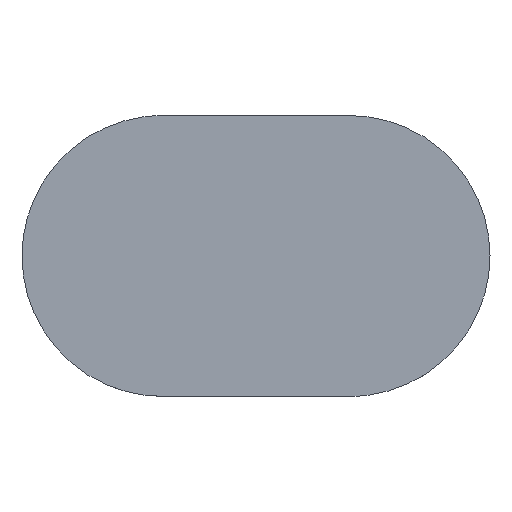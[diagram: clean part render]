
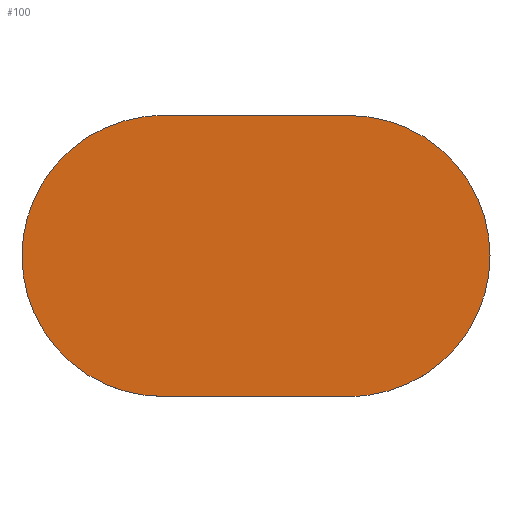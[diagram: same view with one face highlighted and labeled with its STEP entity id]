
A CAD part, top view. The second image highlights one B-rep face of the part: STEP entity #100.
In plain terms, the highlighted planar face has unit normal (0, 0, 1).
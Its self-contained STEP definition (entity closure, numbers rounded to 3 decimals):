
#15=(
BOUNDED_CURVE()
B_SPLINE_CURVE(2,(#491,#492,#493),.UNSPECIFIED.,.F.,.F.)
B_SPLINE_CURVE_WITH_KNOTS((3,3),(-2570.796,-2070.796),
 .UNSPECIFIED.)
CURVE()
GEOMETRIC_REPRESENTATION_ITEM()
RATIONAL_B_SPLINE_CURVE((1.,1.,1.))
REPRESENTATION_ITEM('')
);
#19=(
BOUNDED_CURVE()
B_SPLINE_CURVE(2,(#501,#502,#503,#504,#505),.UNSPECIFIED.,.F.,.F.)
B_SPLINE_CURVE_WITH_KNOTS((3,2,3),(-2070.796,-1678.097,
-1285.398),.UNSPECIFIED.)
CURVE()
GEOMETRIC_REPRESENTATION_ITEM()
RATIONAL_B_SPLINE_CURVE((1.,0.707,1.,0.707,1.))
REPRESENTATION_ITEM('')
);
#22=(
BOUNDED_CURVE()
B_SPLINE_CURVE(2,(#513,#514,#515),.UNSPECIFIED.,.F.,.F.)
B_SPLINE_CURVE_WITH_KNOTS((3,3),(-1285.398,-785.398),
 .UNSPECIFIED.)
CURVE()
GEOMETRIC_REPRESENTATION_ITEM()
RATIONAL_B_SPLINE_CURVE((1.,1.,1.))
REPRESENTATION_ITEM('')
);
#25=(
BOUNDED_CURVE()
B_SPLINE_CURVE(2,(#521,#522,#523,#524,#525),.UNSPECIFIED.,.F.,.F.)
B_SPLINE_CURVE_WITH_KNOTS((3,2,3),(-785.398,-392.699,
0.),.UNSPECIFIED.)
CURVE()
GEOMETRIC_REPRESENTATION_ITEM()
RATIONAL_B_SPLINE_CURVE((1.,0.707,1.,0.707,1.))
REPRESENTATION_ITEM('')
);
#100=ADVANCED_FACE('',(#122),#340,.T.);
#122=FACE_OUTER_BOUND('',#144,.T.);
#144=EDGE_LOOP('',(#196,#197,#198,#199));
#196=ORIENTED_EDGE('',*,*,#262,.F.);
#197=ORIENTED_EDGE('',*,*,#259,.F.);
#198=ORIENTED_EDGE('',*,*,#256,.F.);
#199=ORIENTED_EDGE('',*,*,#252,.F.);
#252=EDGE_CURVE('',#314,#315,#15,.T.);
#256=EDGE_CURVE('',#315,#318,#19,.T.);
#259=EDGE_CURVE('',#318,#320,#22,.T.);
#262=EDGE_CURVE('',#320,#314,#25,.T.);
#314=VERTEX_POINT('',#483);
#315=VERTEX_POINT('',#484);
#318=VERTEX_POINT('',#487);
#320=VERTEX_POINT('',#489);
#340=PLANE('',#376);
#376=AXIS2_PLACEMENT_3D('',#481,#396,$);
#396=DIRECTION('',(0.,0.,1.));
#481=CARTESIAN_POINT('',(455.227,-375.,400.));
#483=CARTESIAN_POINT('',(-369.773,300.,400.));
#484=CARTESIAN_POINT('',(30.227,300.,400.));
#487=CARTESIAN_POINT('',(30.227,-300.,400.));
#489=CARTESIAN_POINT('',(-369.773,-300.,400.));
#491=CARTESIAN_POINT('',(-369.773,300.,400.));
#492=CARTESIAN_POINT('',(-169.773,300.,400.));
#493=CARTESIAN_POINT('',(30.227,300.,400.));
#501=CARTESIAN_POINT('',(30.227,300.,400.));
#502=CARTESIAN_POINT('',(330.227,300.,400.));
#503=CARTESIAN_POINT('',(330.227,0.,400.));
#504=CARTESIAN_POINT('',(330.227,-300.,400.));
#505=CARTESIAN_POINT('',(30.227,-300.,400.));
#513=CARTESIAN_POINT('',(30.227,-300.,400.));
#514=CARTESIAN_POINT('',(-169.773,-300.,400.));
#515=CARTESIAN_POINT('',(-369.773,-300.,400.));
#521=CARTESIAN_POINT('',(-369.773,-300.,400.));
#522=CARTESIAN_POINT('',(-669.773,-300.,400.));
#523=CARTESIAN_POINT('',(-669.773,0.,400.));
#524=CARTESIAN_POINT('',(-669.773,300.,400.));
#525=CARTESIAN_POINT('',(-369.773,300.,400.));
